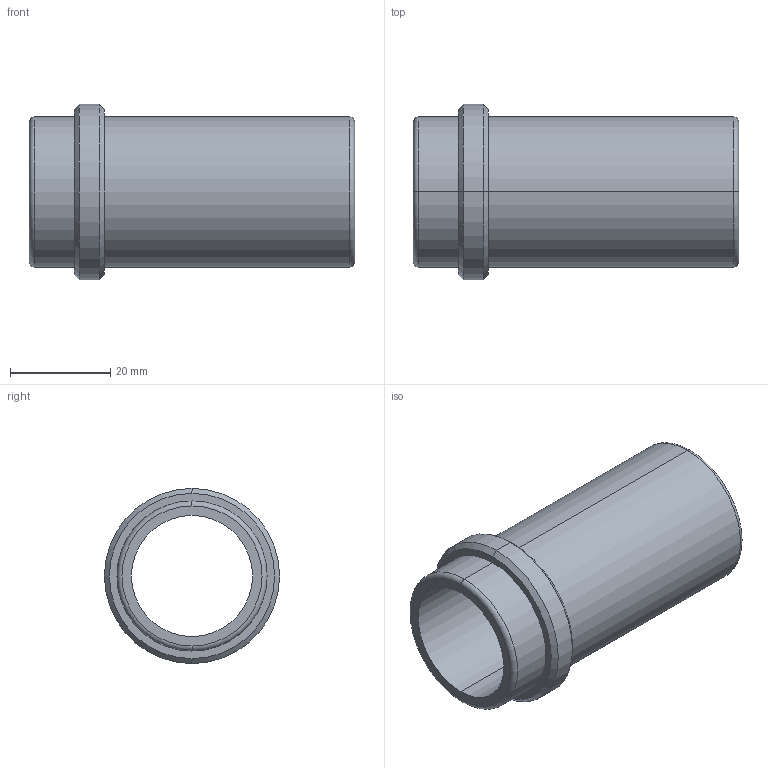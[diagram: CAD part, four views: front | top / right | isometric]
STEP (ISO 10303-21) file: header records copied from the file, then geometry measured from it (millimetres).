
FILE_DESCRIPTION (( 'STEP AP214' ), '1' );
FILE_NAME ('BR10 24x56.STEP', '2019-12-04T16:05:40', ( 'August' ), ( '' ), 'SwSTEP 2.0', 'SolidWorks 2018', '' );
FILE_SCHEMA (( 'AUTOMOTIVE_DESIGN' ));
Length unit declared in the file: millimetre
Products named in the file (1): BR10 24x56
Bounding box: 65 x 35 x 35 mm (x, y, z)
Volume: 17432.2 mm3; surface area: 11953.2 mm2
Topology: 1 solids, 1 shells, 20 faces, 40 edges, 24 vertices
Faces by surface type: cylinder 8, cone 4, torus 4, plane 4
Entity records: 566 total; most frequent: DIRECTION 110, CARTESIAN_POINT 85, ORIENTED_EDGE 80, AXIS2_PLACEMENT_3D 49, EDGE_CURVE 40, CIRCLE 28, VERTEX_POINT 24, EDGE_LOOP 24
